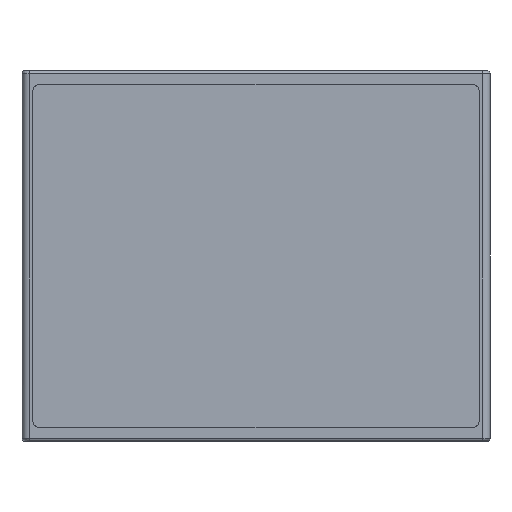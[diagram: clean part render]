
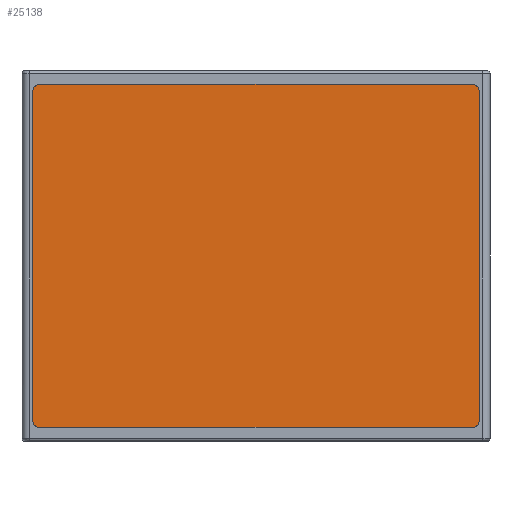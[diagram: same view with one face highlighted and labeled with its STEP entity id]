
A CAD part, top view. The second image highlights one B-rep face of the part: STEP entity #25138.
In plain terms, the highlighted planar face has unit normal (0, 0, 1).
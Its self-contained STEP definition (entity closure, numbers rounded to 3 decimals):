
#7095=CARTESIAN_POINT('',(-149.375,110.7,5.45));
#7096=DIRECTION('',(0.,0.,1.));
#7097=DIRECTION('',(0.,1.,0.));
#7098=AXIS2_PLACEMENT_3D('',#7095,#7096,#7097);
#7100=DIRECTION('',(-1.,0.,0.));
#7101=VECTOR('',#7100,298.75);
#7102=CARTESIAN_POINT('',(149.375,115.5,5.45));
#7103=LINE('',#7102,#7101);
#7104=CARTESIAN_POINT('',(149.375,110.7,5.45));
#7105=DIRECTION('',(0.,0.,1.));
#7106=DIRECTION('',(1.,0.,0.));
#7107=AXIS2_PLACEMENT_3D('',#7104,#7105,#7106);
#7109=DIRECTION('',(0.,1.,0.));
#7110=VECTOR('',#7109,227.4);
#7111=CARTESIAN_POINT('',(154.175,-116.7,5.45));
#7112=LINE('',#7111,#7110);
#7113=CARTESIAN_POINT('',(149.375,-116.7,5.45));
#7114=DIRECTION('',(0.,0.,1.));
#7115=DIRECTION('',(0.,-1.,0.));
#7116=AXIS2_PLACEMENT_3D('',#7113,#7114,#7115);
#7118=DIRECTION('',(1.,0.,0.));
#7119=VECTOR('',#7118,298.75);
#7120=CARTESIAN_POINT('',(-149.375,-121.5,5.45));
#7121=LINE('',#7120,#7119);
#7122=CARTESIAN_POINT('',(-149.375,-116.7,5.45));
#7123=DIRECTION('',(0.,0.,1.));
#7124=DIRECTION('',(-1.,0.,0.));
#7125=AXIS2_PLACEMENT_3D('',#7122,#7123,#7124);
#7127=DIRECTION('',(0.,-1.,0.));
#7128=VECTOR('',#7127,227.4);
#7129=CARTESIAN_POINT('',(-154.175,110.7,5.45));
#7130=LINE('',#7129,#7128);
#12029=CARTESIAN_POINT('',(-149.375,115.5,5.45));
#12030=CARTESIAN_POINT('',(-154.175,110.7,5.45));
#12031=VERTEX_POINT('',#12029);
#12032=VERTEX_POINT('',#12030);
#12033=CARTESIAN_POINT('',(-154.175,-116.7,5.45));
#12034=VERTEX_POINT('',#12033);
#12035=CARTESIAN_POINT('',(-149.375,-121.5,5.45));
#12036=VERTEX_POINT('',#12035);
#12037=CARTESIAN_POINT('',(149.375,-121.5,5.45));
#12038=VERTEX_POINT('',#12037);
#12039=CARTESIAN_POINT('',(154.175,-116.7,5.45));
#12040=VERTEX_POINT('',#12039);
#12041=CARTESIAN_POINT('',(154.175,110.7,5.45));
#12042=VERTEX_POINT('',#12041);
#12043=CARTESIAN_POINT('',(149.375,115.5,5.45));
#12044=VERTEX_POINT('',#12043);
#25123=CARTESIAN_POINT('',(0.,0.,5.45));
#25124=DIRECTION('',(0.,0.,1.));
#25125=DIRECTION('',(1.,0.,0.));
#25126=AXIS2_PLACEMENT_3D('',#25123,#25124,#25125);
#25127=PLANE('',#25126);
#25128=ORIENTED_EDGE('',*,*,#25019,.F.);
#25129=ORIENTED_EDGE('',*,*,#25034,.F.);
#25130=ORIENTED_EDGE('',*,*,#25048,.F.);
#25131=ORIENTED_EDGE('',*,*,#25062,.F.);
#25132=ORIENTED_EDGE('',*,*,#25076,.F.);
#25133=ORIENTED_EDGE('',*,*,#25090,.F.);
#25134=ORIENTED_EDGE('',*,*,#25104,.F.);
#25135=ORIENTED_EDGE('',*,*,#25117,.F.);
#25136=EDGE_LOOP('',(#25128,#25129,#25130,#25131,#25132,#25133,#25134,#25135));
#25137=FACE_OUTER_BOUND('',#25136,.F.);
#7099=CIRCLE('',#7098,4.8);
#7108=CIRCLE('',#7107,4.8);
#7117=CIRCLE('',#7116,4.8);
#7126=CIRCLE('',#7125,4.8);
#25019=EDGE_CURVE('',#12031,#12032,#7099,.T.);
#25034=EDGE_CURVE('',#12044,#12031,#7103,.T.);
#25048=EDGE_CURVE('',#12042,#12044,#7108,.T.);
#25062=EDGE_CURVE('',#12040,#12042,#7112,.T.);
#25076=EDGE_CURVE('',#12038,#12040,#7117,.T.);
#25090=EDGE_CURVE('',#12036,#12038,#7121,.T.);
#25104=EDGE_CURVE('',#12034,#12036,#7126,.T.);
#25117=EDGE_CURVE('',#12032,#12034,#7130,.T.);
#25138=ADVANCED_FACE('',(#25137),#25127,.T.);
